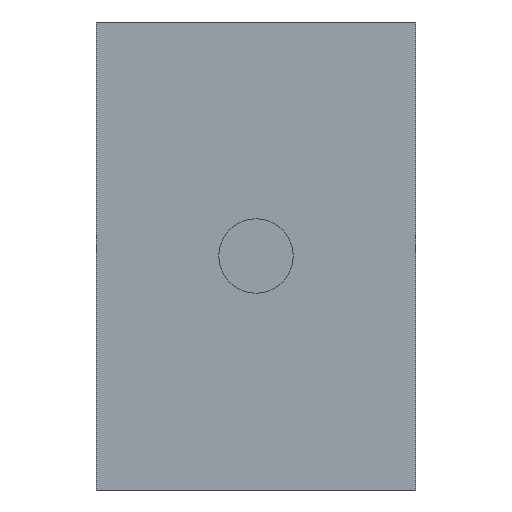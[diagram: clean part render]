
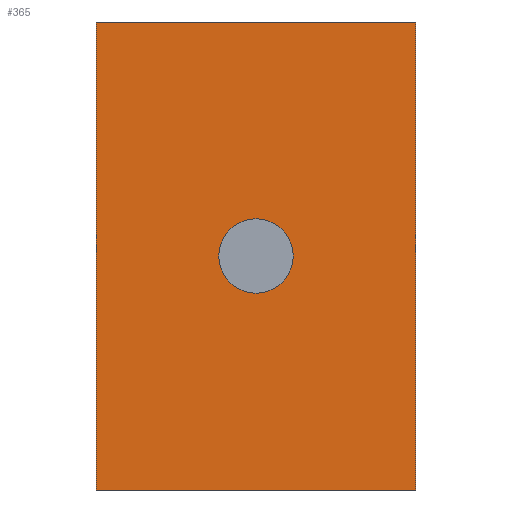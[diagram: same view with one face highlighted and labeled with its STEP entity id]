
A CAD part, front view. The second image highlights one B-rep face of the part: STEP entity #365.
In plain terms, the highlighted planar face has unit normal (0, -1, 0).
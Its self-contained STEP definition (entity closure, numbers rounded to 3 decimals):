
#5 = DIRECTION ( 'NONE',  ( 0., -1., 0. ) ) ;
#32 = EDGE_CURVE ( 'NONE', #767, #1040, #1742, .T. ) ;
#69 = FACE_BOUND ( 'NONE', #802, .T. ) ;
#108 = DIRECTION ( 'NONE',  ( 0., 0., 1. ) ) ;
#157 = ORIENTED_EDGE ( 'NONE', *, *, #1244, .F. ) ;
#266 = EDGE_CURVE ( 'NONE', #322, #595, #1230, .T. ) ;
#277 = CARTESIAN_POINT ( 'NONE',  ( -15., 0., 0. ) ) ;
#289 = ORIENTED_EDGE ( 'NONE', *, *, #1424, .F. ) ;
#322 = VERTEX_POINT ( 'NONE', #653 ) ;
#365 = ADVANCED_FACE ( 'NONE', ( #69, #670 ), #1280, .F. ) ;
#397 = VECTOR ( 'NONE', #909, 1000. ) ;
#409 = LINE ( 'NONE', #554, #1290 ) ;
#518 = DIRECTION ( 'NONE',  ( 0., 0., -1. ) ) ;
#523 = DIRECTION ( 'NONE',  ( 0., 0., 1. ) ) ;
#536 = CARTESIAN_POINT ( 'NONE',  ( 0., 0., 22. ) ) ;
#544 = CARTESIAN_POINT ( 'NONE',  ( 0., 0., 22. ) ) ;
#554 = CARTESIAN_POINT ( 'NONE',  ( 0., 0., 22. ) ) ;
#562 = CARTESIAN_POINT ( 'NONE',  ( -7.5, 0., 11. ) ) ;
#595 = VERTEX_POINT ( 'NONE', #1406 ) ;
#629 = EDGE_CURVE ( 'NONE', #915, #871, #1050, .T. ) ;
#643 = CIRCLE ( 'NONE', #1894, 1.75 ) ;
#653 = CARTESIAN_POINT ( 'NONE',  ( 0., 0., 22. ) ) ;
#666 = CARTESIAN_POINT ( 'NONE',  ( -7.5, 0., 11. ) ) ;
#670 = FACE_OUTER_BOUND ( 'NONE', #1867, .T. ) ;
#693 = CARTESIAN_POINT ( 'NONE',  ( -7.5, 0., 9.25 ) ) ;
#709 = DIRECTION ( 'NONE',  ( 0., 1., 0. ) ) ;
#767 = VERTEX_POINT ( 'NONE', #1689 ) ;
#802 = EDGE_LOOP ( 'NONE', ( #289, #878 ) ) ;
#804 = ORIENTED_EDGE ( 'NONE', *, *, #1540, .T. ) ;
#871 = VERTEX_POINT ( 'NONE', #1721 ) ;
#878 = ORIENTED_EDGE ( 'NONE', *, *, #629, .F. ) ;
#909 = DIRECTION ( 'NONE',  ( 1., 0., 0. ) ) ;
#915 = VERTEX_POINT ( 'NONE', #693 ) ;
#1004 = DIRECTION ( 'NONE',  ( 1., 0., 0. ) ) ;
#1040 = VERTEX_POINT ( 'NONE', #277 ) ;
#1050 = CIRCLE ( 'NONE', #1643, 1.75 ) ;
#1151 = ORIENTED_EDGE ( 'NONE', *, *, #32, .T. ) ;
#1230 = LINE ( 'NONE', #536, #1736 ) ;
#1234 = LINE ( 'NONE', #1840, #397 ) ;
#1244 = EDGE_CURVE ( 'NONE', #767, #322, #409, .T. ) ;
#1280 = PLANE ( 'NONE',  #1799 ) ;
#1290 = VECTOR ( 'NONE', #1004, 1000. ) ;
#1302 = DIRECTION ( 'NONE',  ( 0., 0., 1. ) ) ;
#1304 = DIRECTION ( 'NONE',  ( 0., 0., -1. ) ) ;
#1406 = CARTESIAN_POINT ( 'NONE',  ( 0., 0., 0. ) ) ;
#1424 = EDGE_CURVE ( 'NONE', #871, #915, #643, .T. ) ;
#1540 = EDGE_CURVE ( 'NONE', #1040, #595, #1234, .T. ) ;
#1548 = ORIENTED_EDGE ( 'NONE', *, *, #266, .F. ) ;
#1643 = AXIS2_PLACEMENT_3D ( 'NONE', #666, #1861, #523 ) ;
#1689 = CARTESIAN_POINT ( 'NONE',  ( -15., 0., 22. ) ) ;
#1721 = CARTESIAN_POINT ( 'NONE',  ( -7.5, 0., 12.75 ) ) ;
#1736 = VECTOR ( 'NONE', #518, 1000. ) ;
#1742 = LINE ( 'NONE', #1916, #1893 ) ;
#1799 = AXIS2_PLACEMENT_3D ( 'NONE', #544, #709, #1302 ) ;
#1840 = CARTESIAN_POINT ( 'NONE',  ( 0., 0., 0. ) ) ;
#1861 = DIRECTION ( 'NONE',  ( 0., -1., 0. ) ) ;
#1867 = EDGE_LOOP ( 'NONE', ( #804, #1548, #157, #1151 ) ) ;
#1893 = VECTOR ( 'NONE', #1304, 1000. ) ;
#1894 = AXIS2_PLACEMENT_3D ( 'NONE', #562, #5, #108 ) ;
#1916 = CARTESIAN_POINT ( 'NONE',  ( -15., 0., 22. ) ) ;
